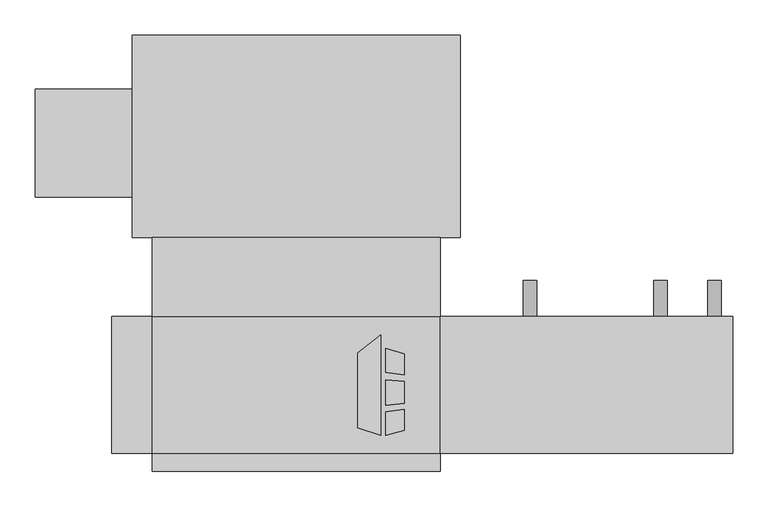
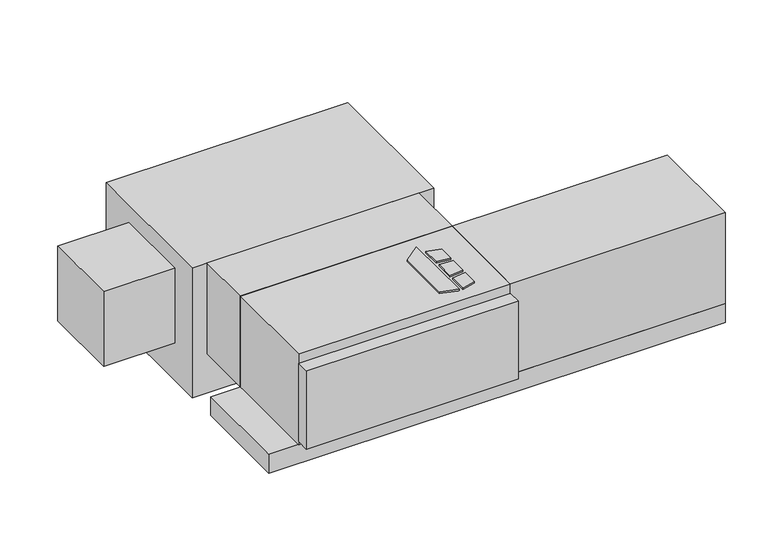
"""IFC4 building model written with IfcOpenShell, lengths in millimetres: proxy geometry, Concealed_Horizontal_Fan_Coil_Unit_With_Plenum_-_CPF_-_IEC_-_4-Pipe_RH : Size 02 - 115v/60Hz/1Ph - 4/1 Coil."""

from ifc_helpers import new_model, si_unit, point, frame, frame_2d, origin, origin_with_axes, place, context, project, spatial, polyline, circle_curve, trimmed, segment, composite_curve, outline, extrude, source, transform, mapped, element, save


def mechanical_equipment_0c561984(model_context):
    return source(origin(), model_context, "Body", "SweptSolid", [
        extrude(outline(polyline([(239.4019761, -193.0453476), (271.9602728, -167.6080184), (271.9602728, -309.5625), (239.4019761, -299.3429201), (239.4019761, -193.0453476)])), origin_with_axes(), (0.0, 0.0, 1.0), 3.175),
        extrude(outline(polyline([(278.7186058, -220.917352), (278.7186058, -186.4374379), (304.8, -194.6240115), (304.8, -224.1197446), (278.7186058, -220.917352)])), origin_with_axes(), (0.0, 0.0, 1.0), 3.175),
        extrude(outline(polyline([(304.8, -302.5740115), (278.7186058, -309.5625), (278.7186058, -276.3411996), (304.8, -272.7993564), (304.8, -302.5740115)])), origin_with_axes(), (0.0, 0.0, 1.0), 3.175),
        extrude(outline(polyline([(304.8, -233.2013277), (304.8, -264.451483), (278.7186058, -267.192748), (278.7186058, -231.3350378), (304.8, -233.2013277)])), origin_with_axes(), (0.0, 0.0, 1.0), 3.175),
        extrude(outline(polyline([(-50.8, -30.1625), (355.6, -30.1625), (355.6, -141.2875), (-50.8, -141.2875), (-50.8, -30.1625)])), frame((0.0, 0.0, -184.15), z_axis=(0.0, 0.0, 1.0), x_axis=(1.0, 0.0, 0.0)), (0.0, 0.0, 1.0), 184.15),
        extrude(outline(composite_curve([segment(trimmed(circle_curve(frame_2d((-158.75, 666.75)), 9.525), [point((-158.75, 676.275))], [point((-158.75, 657.225))], False, "CARTESIAN"), True, "CONTINUOUS"), segment(trimmed(circle_curve(frame_2d((-158.75, 666.75)), 9.525), [point((-158.75, 657.225))], [point((-158.75, 676.275))], False, "CARTESIAN"), True, "CONTINUOUS")], self_intersect=False)), frame((0.0, -141.2875, 0.0), z_axis=(0.0, 1.0, 0.0), x_axis=(0.0, 0.0, 1.0)), (0.0, 0.0, 1.0), 50.8),
        extrude(outline(composite_curve([segment(trimmed(circle_curve(frame_2d((-69.85, 666.75)), 9.525), [point((-69.85, 676.275))], [point((-69.85, 657.225))], False, "CARTESIAN"), True, "CONTINUOUS"), segment(trimmed(circle_curve(frame_2d((-69.85, 666.75)), 9.525), [point((-69.85, 657.225))], [point((-69.85, 676.275))], False, "CARTESIAN"), True, "CONTINUOUS")], self_intersect=False)), frame((0.0, -141.2875, 0.0), z_axis=(0.0, 1.0, 0.0), x_axis=(0.0, 0.0, 1.0)), (0.0, 0.0, 1.0), 50.8),
        extrude(outline(composite_curve([segment(trimmed(circle_curve(frame_2d((-69.85, 482.6)), 9.525), [point((-69.85, 492.125))], [point((-69.85, 473.075))], False, "CARTESIAN"), True, "CONTINUOUS"), segment(trimmed(circle_curve(frame_2d((-69.85, 482.6)), 9.525), [point((-69.85, 473.075))], [point((-69.85, 492.125))], False, "CARTESIAN"), True, "CONTINUOUS")], self_intersect=False)), frame((0.0, -141.2875, 0.0), z_axis=(0.0, 1.0, 0.0), x_axis=(0.0, 0.0, 1.0)), (0.0, 0.0, 1.0), 50.8),
        extrude(outline(composite_curve([segment(trimmed(circle_curve(frame_2d((-158.75, 482.6)), 9.525), [point((-158.75, 492.125))], [point((-158.75, 473.075))], False, "CARTESIAN"), True, "CONTINUOUS"), segment(trimmed(circle_curve(frame_2d((-158.75, 482.6)), 9.525), [point((-158.75, 473.075))], [point((-158.75, 492.125))], False, "CARTESIAN"), True, "CONTINUOUS")], self_intersect=False)), frame((0.0, -141.2875, 0.0), z_axis=(0.0, 1.0, 0.0), x_axis=(0.0, 0.0, 1.0)), (0.0, 0.0, 1.0), 50.8),
        extrude(outline(polyline([(768.35, -141.2875), (768.35, -334.9625), (355.6, -334.9625), (355.6, -141.2875), (768.35, -141.2875)])), frame((0.0, 0.0, -184.15), z_axis=(0.0, 0.0, 1.0), x_axis=(1.0, 0.0, 0.0)), (0.0, 0.0, 1.0), 184.15),
        extrude(outline(composite_curve([segment(trimmed(circle_curve(frame_2d((-209.55, 742.95)), 9.525), [point((-209.55, 733.425))], [point((-209.55, 752.475))], False, "CARTESIAN"), True, "CONTINUOUS"), segment(trimmed(circle_curve(frame_2d((-209.55, 742.95)), 9.525), [point((-209.55, 752.475))], [point((-209.55, 733.425))], False, "CARTESIAN"), True, "CONTINUOUS")], self_intersect=False)), frame((0.0, -141.2875, 0.0), z_axis=(0.0, 1.0, 0.0), x_axis=(0.0, 0.0, 1.0)), (0.0, 0.0, 1.0), 50.8),
        extrude(outline(polyline([(355.6, -334.9625), (355.6, -360.3625), (-50.8, -360.3625), (-50.8, -334.9625), (355.6, -334.9625)])), frame((0.0, 0.0, -177.8), z_axis=(0.0, 0.0, 1.0), x_axis=(1.0, 0.0, 0.0)), (0.0, 0.0, 1.0), 158.75),
        extrude(outline(polyline([(355.6, -334.9625), (-50.8, -334.9625), (-50.8, -141.2875), (355.6, -141.2875), (355.6, -334.9625)])), frame((0.0, 0.0, -184.15), z_axis=(0.0, 0.0, 1.0), x_axis=(1.0, 0.0, 0.0)), (0.0, 0.0, 1.0), 184.15),
        extrude(outline(polyline([(768.35, -141.2875), (768.35, -334.9625), (-107.95, -334.9625), (-107.95, -141.2875), (768.35, -141.2875)])), frame((0.0, 0.0, -222.25), z_axis=(0.0, 0.0, 1.0), x_axis=(1.0, 0.0, 0.0)), (0.0, 0.0, 1.0), 38.1),
        extrude(outline(polyline([(-215.9, 26.9875), (-215.9, 179.3875), (-79.375, 179.3875), (-79.375, 26.9875), (-215.9, 26.9875)])), frame((0.0, 0.0, -187.325), z_axis=(0.0, 0.0, 1.0), x_axis=(1.0, 0.0, 0.0)), (0.0, 0.0, 1.0), 152.4),
        extrude(outline(polyline([(-79.375, 255.5875), (384.175, 255.5875), (384.175, -30.1625), (-79.375, -30.1625), (-79.375, 255.5875)])), frame((0.0, 0.0, -263.525), z_axis=(0.0, 0.0, 1.0), x_axis=(1.0, 0.0, 0.0)), (0.0, 0.0, 1.0), 263.525),
    ])


if __name__ == "__main__":
    model = new_model("IFC4")
    model_context = context("Model", 3, world=origin())
    ifc_project = project(units=[si_unit("LENGTHUNIT", "METRE", prefix="MILLI")], contexts=[model_context])
    site = spatial("IfcSite", under=ifc_project)
    building = spatial("IfcBuilding", under=site)
    placement = place(None, origin())
    mechanical_equipment_shape = mechanical_equipment_0c561984(model_context)
    element("IfcBuildingElementProxy", 1, Name="Concealed_Horizontal_Fan_Coil_Unit_With_Plenum_-_CPF_-_IEC_-_4-Pipe_RH : Size 02 - 115v/60Hz/1Ph - 4/1 Coil", ObjectType="Concealed_Horizontal_Fan_Coil_Unit_With_Plenum_-_CPF_-_IEC_-_4-Pipe_RH : Size 02 - 115v/60Hz/1Ph - 4/1 Coil", at=placement, inside=building, context=model_context, shape_type="MappedRepresentation", body=[
        mapped(mechanical_equipment_shape, transform((0.0, 0.0, 0.0), x_axis=(1.0, 0.0, 0.0), y_axis=(0.0, 1.0, 0.0), z_axis=(0.0, 0.0, 1.0))),
    ])
    save(model, "model.ifc")
